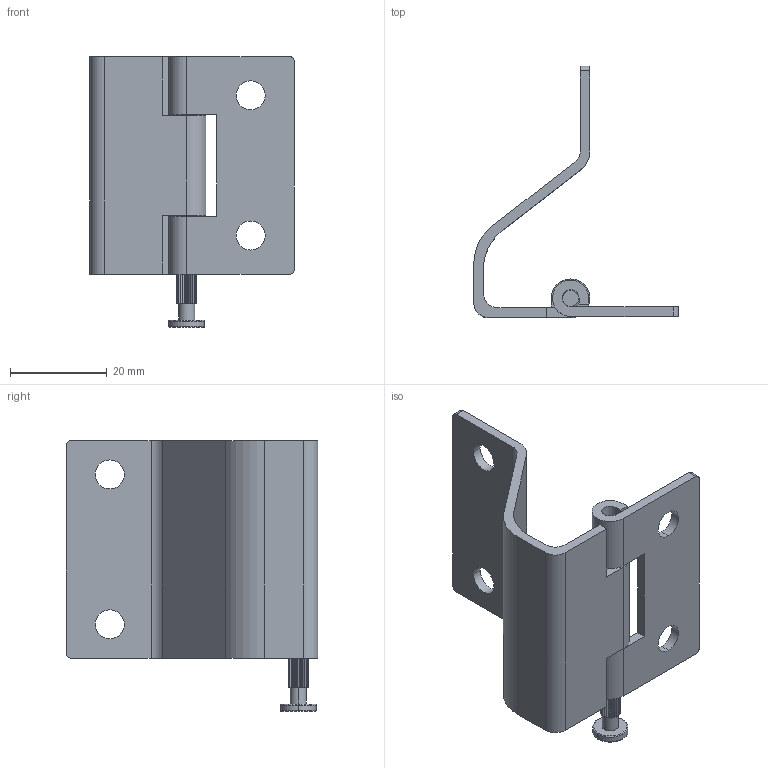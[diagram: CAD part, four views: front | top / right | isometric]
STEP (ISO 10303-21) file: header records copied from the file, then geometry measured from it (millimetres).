
FILE_DESCRIPTION (( 'STEP AP214' ), '1' );
FILE_NAME ('衄謂.STEP', '2023-08-24T00:26:36', ( '' ), ( '' ), 'SwSTEP 2.0', 'SolidWorks 2019', '' );
FILE_SCHEMA (( 'AUTOMOTIVE_DESIGN' ));
Length unit declared in the file: millimetre
Products named in the file (3): 衄謂; 錨璃1; 2
Assembly tree (2 placements, depth 2):
  衄謂
    錨璃1
    2
Bounding box: 42.27 x 52 x 56 mm (x, y, z)
Volume: 10327.2 mm3; surface area: 11496.2 mm2
Topology: 3 solids, 3 shells, 174 faces, 446 edges, 280 vertices
Faces by surface type: plane 88, bspline 50, cylinder 32, torus 4
Entity records: 5528 total; most frequent: CARTESIAN_POINT 1561, ORIENTED_EDGE 892, DIRECTION 749, EDGE_CURVE 446, VERTEX_POINT 280, AXIS2_PLACEMENT_3D 276, VECTOR 197, LINE 197
